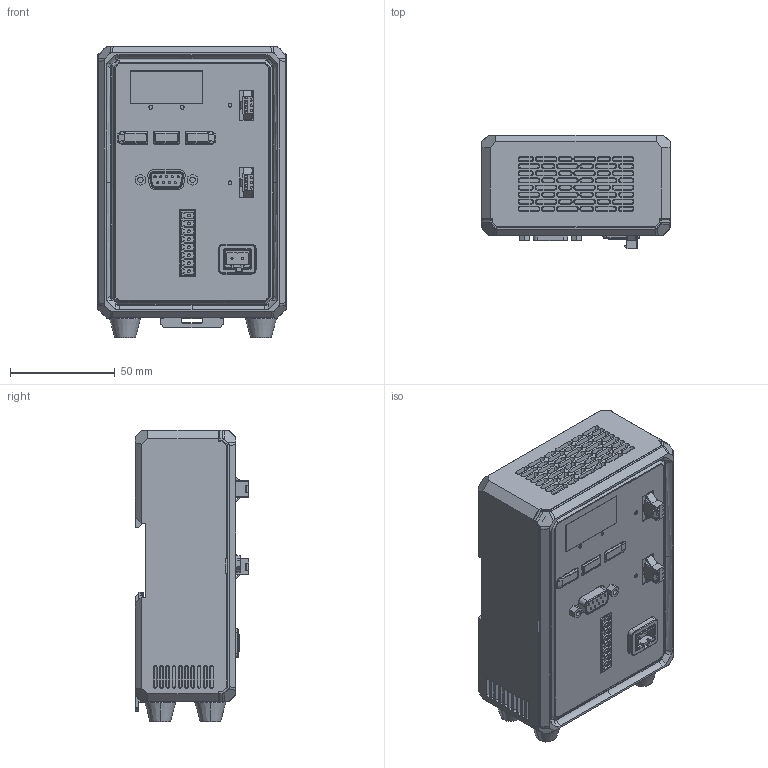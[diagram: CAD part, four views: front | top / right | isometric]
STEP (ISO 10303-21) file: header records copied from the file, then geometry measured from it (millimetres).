
FILE_DESCRIPTION((''),'2;1');
FILE_NAME('MV-LE201-10W5-2D-0001','2024-04-07T11:00:58',('qinyangfan'),(''),'CREO PARAMETRIC BY PTC INC, 2020044','CREO PARAMETRIC BY PTC INC, 2020044','');
FILE_SCHEMA(('CONFIG_CONTROL_DESIGN'));
Products named in the file (1): MV-LE201-10W5-2D-0001
Bounding box: 90.08 x 54.35 x 139.54 mm (x, y, z)
Volume: 510071.1 mm3; surface area: 61358 mm2
Topology: 1 solids, 9 shells, 2699 faces, 7465 edges, 5002 vertices
Faces by surface type: plane 1543, cylinder 527, cone 315, bspline 171, torus 79, extrusion 57, sphere 7
Entity records: 102003 total; most frequent: CARTESIAN_POINT 33474, ORIENTED_EDGE 14912, DIRECTION 13359, EDGE_CURVE 7456, VERTEX_POINT 5002, VECTOR 4679, LINE 4622, AXIS2_PLACEMENT_3D 4340
